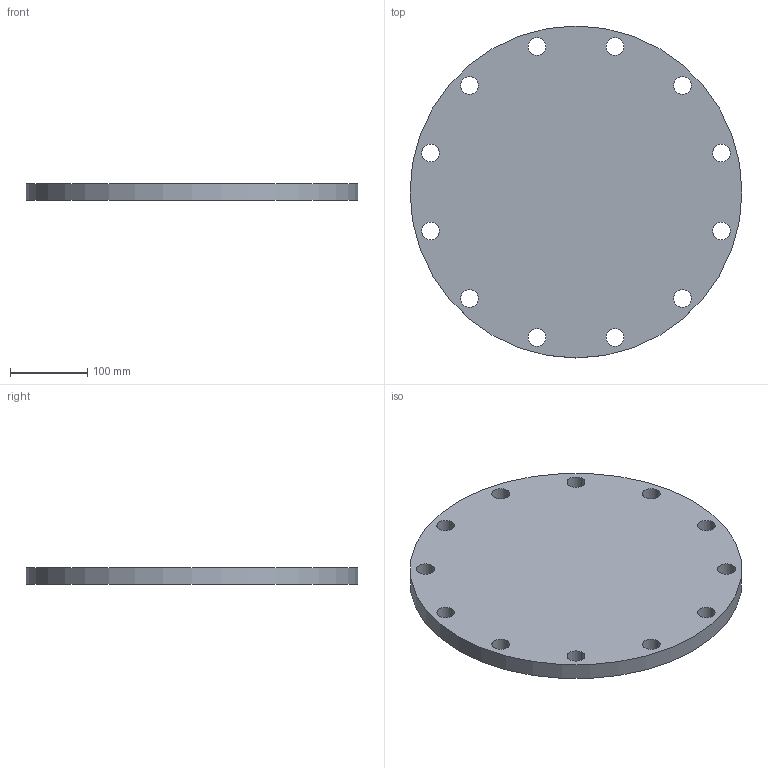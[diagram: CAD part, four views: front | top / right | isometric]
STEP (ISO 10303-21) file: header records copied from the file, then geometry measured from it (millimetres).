
FILE_DESCRIPTION(/* description */ (''),/* implementation_level */ '2;1');
FILE_NAME(/* name */ 'C:\Users\D\Documents\Inventor\HP\JIS\フランジ\JIS 5k bl ff\jis5k-bl-ff-300.stp',/* time_stamp */ '2024-09-12T16:49:26+09:00',/* author */ ('D'),/* organization */ (''),/* preprocessor_version */ 'ST-DEVELOPER v18',/* originating_system */ 'Autodesk Inventor 2020',/* authorisation */ '');
FILE_SCHEMA (('AUTOMOTIVE_DESIGN { 1 0 10303 214 3 1 1 }'));
Length unit declared in the file: millimetre
Products named in the file (1): jis5k-sop-rf-10
Bounding box: 430 x 430 x 22 mm (x, y, z)
Volume: 3085157.1 mm3; surface area: 329264 mm2
Topology: 1 solids, 1 shells, 15 faces, 53 edges, 40 vertices
Faces by surface type: cylinder 13, plane 2
Full cylindrical faces by diameter (mm): 23 x12, 430 x1
Entity records: 708 total; most frequent: DIRECTION 125, CARTESIAN_POINT 109, ORIENTED_EDGE 106, AXIS2_PLACEMENT_3D 56, EDGE_CURVE 53, CIRCLE 40, VERTEX_POINT 40, EDGE_LOOP 39
